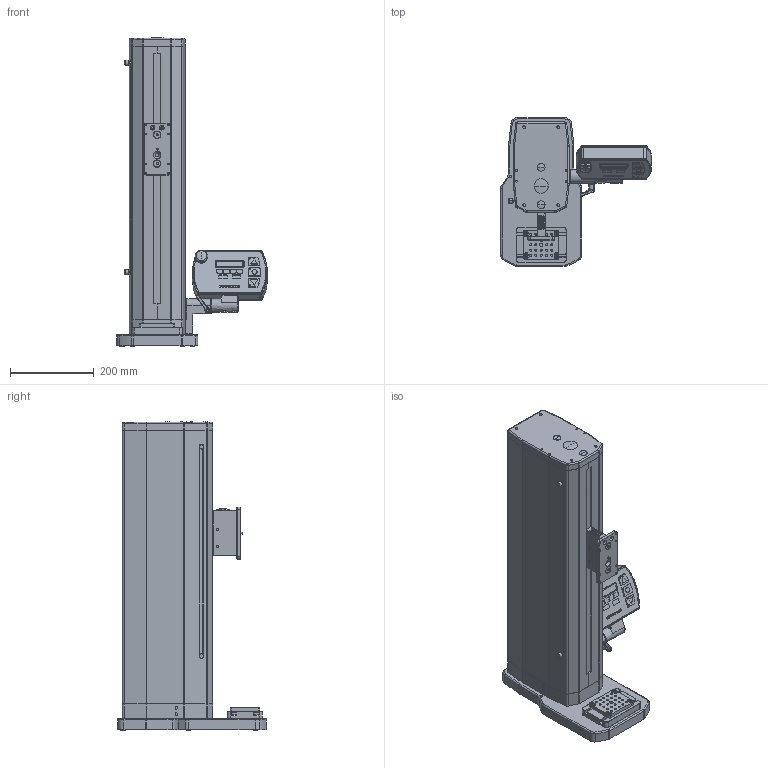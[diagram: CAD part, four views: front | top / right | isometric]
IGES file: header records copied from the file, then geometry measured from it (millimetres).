
Global section: file name: No Iges File Name specified; native system: Autodesk Inventor 2010; preprocessor: AutoDesk Inventor Iges Exporter R2010; author: mlampen; date: 20160518.121105; units: inch
Bounding box: 358.76 x 354.33 x 735.19 mm (x, y, z)
Volume: 22178391.3 mm3; surface area: 793737.6 mm2
Topology: 9 solids, 9 shells, 2238 faces, 5650 edges, 3557 vertices
Faces by surface type: plane 1084, revolution 467, cylinder 394, bspline 125, cone 100, torus 58, sphere 10
